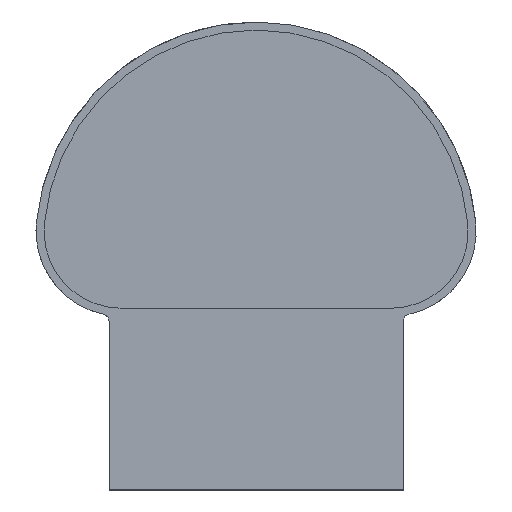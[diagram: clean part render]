
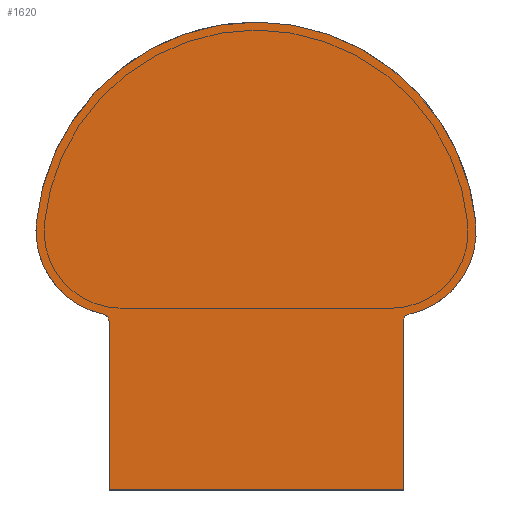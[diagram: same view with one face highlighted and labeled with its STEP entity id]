
A CAD part, left-side view. The second image highlights one B-rep face of the part: STEP entity #1620.
In plain terms, the highlighted planar face has unit normal (-1, 0, 0).
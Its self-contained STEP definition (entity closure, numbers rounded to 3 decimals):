
#86=PLANE('',#1778);
#168=FACE_OUTER_BOUND('',#272,.T.);
#272=EDGE_LOOP('',(#1362,#1363,#1364,#1365,#1366,#1367,#1368,#1369,#1370));
#339=CIRCLE('',#1760,1.384);
#341=CIRCLE('',#1763,15.943);
#343=CIRCLE('',#1766,41.454);
#345=CIRCLE('',#1769,41.454);
#347=CIRCLE('',#1772,15.943);
#349=CIRCLE('',#1775,1.384);
#461=LINE('',#3046,#604);
#465=LINE('',#3054,#608);
#468=LINE('',#3060,#611);
#604=VECTOR('',#2128,304.8);
#608=VECTOR('',#2134,304.8);
#611=VECTOR('',#2139,304.8);
#750=VERTEX_POINT('',#3044);
#751=VERTEX_POINT('',#3045);
#754=VERTEX_POINT('',#3053);
#756=VERTEX_POINT('',#3059);
#758=VERTEX_POINT('',#3065);
#760=VERTEX_POINT('',#3071);
#762=VERTEX_POINT('',#3077);
#764=VERTEX_POINT('',#3083);
#766=VERTEX_POINT('',#3089);
#952=EDGE_CURVE('',#750,#751,#461,.T.);
#956=EDGE_CURVE('',#751,#754,#465,.T.);
#959=EDGE_CURVE('',#754,#756,#468,.T.);
#962=EDGE_CURVE('',#756,#758,#339,.T.);
#965=EDGE_CURVE('',#758,#760,#341,.T.);
#968=EDGE_CURVE('',#760,#762,#343,.T.);
#971=EDGE_CURVE('',#762,#764,#345,.T.);
#974=EDGE_CURVE('',#764,#766,#347,.T.);
#977=EDGE_CURVE('',#766,#750,#349,.T.);
#1362=ORIENTED_EDGE('',*,*,#952,.T.);
#1363=ORIENTED_EDGE('',*,*,#956,.T.);
#1364=ORIENTED_EDGE('',*,*,#959,.T.);
#1365=ORIENTED_EDGE('',*,*,#962,.T.);
#1366=ORIENTED_EDGE('',*,*,#965,.T.);
#1367=ORIENTED_EDGE('',*,*,#968,.T.);
#1368=ORIENTED_EDGE('',*,*,#971,.T.);
#1369=ORIENTED_EDGE('',*,*,#974,.T.);
#1370=ORIENTED_EDGE('',*,*,#977,.T.);
#1620=ADVANCED_FACE('',(#168),#86,.T.);
#1760=AXIS2_PLACEMENT_3D('',#3066,#2144,#2145);
#1763=AXIS2_PLACEMENT_3D('',#3072,#2151,#2152);
#1766=AXIS2_PLACEMENT_3D('',#3078,#2158,#2159);
#1769=AXIS2_PLACEMENT_3D('',#3084,#2165,#2166);
#1772=AXIS2_PLACEMENT_3D('',#3090,#2172,#2173);
#1775=AXIS2_PLACEMENT_3D('',#3095,#2179,#2180);
#1778=AXIS2_PLACEMENT_3D('',#3098,#2185,#2186);
#2128=DIRECTION('',(0.,0.,-1.));
#2134=DIRECTION('',(0.,-1.,0.));
#2139=DIRECTION('',(0.,0.,1.));
#2144=DIRECTION('center_axis',(1.,0.,0.));
#2145=DIRECTION('ref_axis',(0.,0.,-1.));
#2151=DIRECTION('center_axis',(-1.,0.,0.));
#2152=DIRECTION('ref_axis',(0.,0.,
-1.));
#2158=DIRECTION('center_axis',(-1.,0.,0.));
#2159=DIRECTION('ref_axis',(0.,0.,
-1.));
#2165=DIRECTION('center_axis',(-1.,0.,0.));
#2166=DIRECTION('ref_axis',(0.,0.,
-1.));
#2172=DIRECTION('center_axis',(-1.,0.,0.));
#2173=DIRECTION('ref_axis',(0.,0.,
-1.));
#2179=DIRECTION('center_axis',(1.,0.,0.));
#2180=DIRECTION('ref_axis',(0.,0.,-1.));
#2185=DIRECTION('center_axis',(-1.,0.,0.));
#2186=DIRECTION('ref_axis',(0.,0.,-1.));
#3044=CARTESIAN_POINT('',(-290.,27.5,31.508));
#3045=CARTESIAN_POINT('',(-290.,27.5,0.));
#3046=CARTESIAN_POINT('',(-290.,27.5,31.508));
#3053=CARTESIAN_POINT('',(-290.,-27.5,0.));
#3054=CARTESIAN_POINT('',(-290.,27.5,0.));
#3059=CARTESIAN_POINT('',(-290.,-27.5,31.508));
#3060=CARTESIAN_POINT('',(-290.,-27.5,0.));
#3065=CARTESIAN_POINT('',(-290.,-28.59,32.86));
#3066=CARTESIAN_POINT('Origin',(-290.,-28.884,31.508));
#3071=CARTESIAN_POINT('',(-290.,-41.084,49.934));
#3072=CARTESIAN_POINT('Origin',(-290.,-25.211,48.441));
#3077=CARTESIAN_POINT('',(-290.,0.,87.505));
#3078=CARTESIAN_POINT('Origin',(-290.,0.187,46.052));
#3083=CARTESIAN_POINT('',(-290.,41.084,49.934));
#3084=CARTESIAN_POINT('Origin',(-290.,-0.187,46.052));
#3089=CARTESIAN_POINT('',(-290.,28.59,32.86));
#3090=CARTESIAN_POINT('Origin',(-290.,25.211,48.441));
#3095=CARTESIAN_POINT('Origin',(-290.,28.884,31.508));
#3098=CARTESIAN_POINT('Origin',(-290.,27.5,0.));
